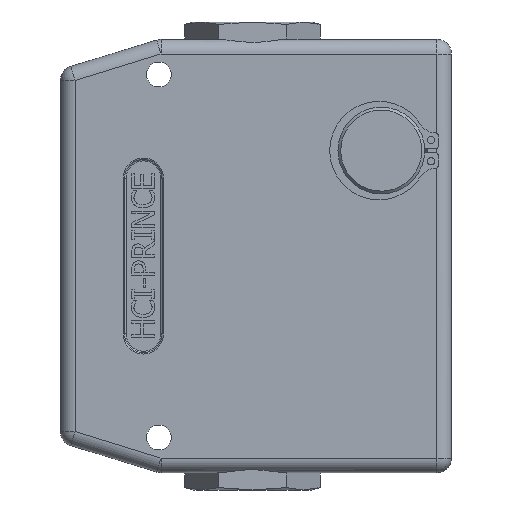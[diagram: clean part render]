
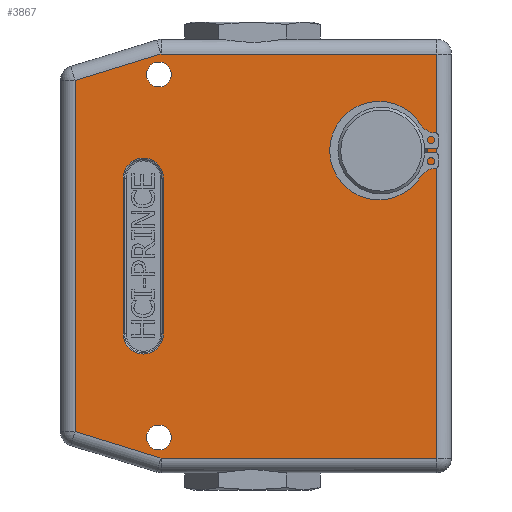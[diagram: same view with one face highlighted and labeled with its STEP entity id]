
A CAD part, left-side view. The second image highlights one B-rep face of the part: STEP entity #3867.
In plain terms, the highlighted planar face has unit normal (-1, 0, 0).
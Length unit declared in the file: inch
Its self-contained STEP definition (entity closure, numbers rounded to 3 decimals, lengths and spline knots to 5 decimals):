
#3639=CARTESIAN_POINT('',(-0.875,-1.969,-4.439));
#3640=VERTEX_POINT('',#3639);
#3648=CARTESIAN_POINT('',(-0.875,0.97655,-4.439));
#3649=VERTEX_POINT('',#3648);
#3650=CARTESIAN_POINT('',(-0.875,-1.969,-4.439));
#3651=DIRECTION('',(0.0,1.0,0.0));
#3652=VECTOR('',#3651,2.94555);
#3653=LINE('',#3650,#3652);
#3654=EDGE_CURVE('',#3640,#3649,#3653,.T.);
#3748=CARTESIAN_POINT('',(-0.875,-1.375,-1.65329));
#3749=VERTEX_POINT('',#3748);
#3750=CARTESIAN_POINT('',(-0.875,-1.375,-1.157));
#3751=DIRECTION('',(-1.0,0.0,0.0));
#3752=DIRECTION('',(0.0,0.0,1.0));
#3753=AXIS2_PLACEMENT_3D('',#3750,#3751,#3752);
#3754=CIRCLE('',#3753,0.49629);
#3755=EDGE_CURVE('',#3749,#3749,#3754,.T.);
#3760=CARTESIAN_POINT('',(-0.875,-0.09973,-2.2824));
#3761=DIRECTION('',(1.0,0.0,0.0));
#3762=DIRECTION('',(0.0,0.0,-1.0));
#3763=AXIS2_PLACEMENT_3D('',#3760,#3761,#3762);
#3764=PLANE('',#3763);
#3765=ORIENTED_EDGE('',*,*,#3654,.F.);
#3766=CARTESIAN_POINT('',(-0.875,-1.969,-0.126));
#3767=VERTEX_POINT('',#3766);
#3768=CARTESIAN_POINT('',(-0.875,-1.969,-0.126));
#3769=DIRECTION('',(0.0,0.0,-1.0));
#3770=VECTOR('',#3769,4.313);
#3771=LINE('',#3768,#3770);
#3772=EDGE_CURVE('',#3767,#3640,#3771,.T.);
#3773=ORIENTED_EDGE('',*,*,#3772,.F.);
#3774=CARTESIAN_POINT('',(-0.875,0.97662,-0.126));
#3775=VERTEX_POINT('',#3774);
#3776=CARTESIAN_POINT('',(-0.875,0.97662,-0.126));
#3777=DIRECTION('',(0.0,-1.0,0.0));
#3778=VECTOR('',#3777,2.94562);
#3779=LINE('',#3776,#3778);
#3780=EDGE_CURVE('',#3775,#3767,#3779,.T.);
#3781=ORIENTED_EDGE('',*,*,#3780,.F.);
#3782=CARTESIAN_POINT('',(-0.875,1.894,-0.40733));
#3783=VERTEX_POINT('',#3782);
#3784=CARTESIAN_POINT('',(-0.875,1.894,-0.40733));
#3785=DIRECTION('',(0.0,-0.956,0.293));
#3786=VECTOR('',#3785,0.95955);
#3787=LINE('',#3784,#3786);
#3788=EDGE_CURVE('',#3783,#3775,#3787,.T.);
#3789=ORIENTED_EDGE('',*,*,#3788,.F.);
#3790=CARTESIAN_POINT('',(-0.875,1.894,-4.15677));
#3791=VERTEX_POINT('',#3790);
#3792=CARTESIAN_POINT('',(-0.875,1.894,-4.15677));
#3793=DIRECTION('',(0.0,0.0,1.0));
#3794=VECTOR('',#3793,3.74944);
#3795=LINE('',#3792,#3794);
#3796=EDGE_CURVE('',#3791,#3783,#3795,.T.);
#3797=ORIENTED_EDGE('',*,*,#3796,.F.);
#3798=CARTESIAN_POINT('',(-0.875,0.97655,-4.439));
#3799=DIRECTION('',(0.0,0.956,0.294));
#3800=VECTOR('',#3799,0.95988);
#3801=LINE('',#3798,#3800);
#3802=EDGE_CURVE('',#3649,#3791,#3801,.T.);
#3803=ORIENTED_EDGE('',*,*,#3802,.F.);
#3804=EDGE_LOOP('',(#3765,#3773,#3781,#3789,#3797,#3803));
#3805=FACE_OUTER_BOUND('',#3804,.T.);
#3806=CARTESIAN_POINT('',(-0.875,1.38,-3.1135));
#3807=VERTEX_POINT('',#3806);
#3808=CARTESIAN_POINT('',(-0.875,0.95,-3.1135));
#3809=VERTEX_POINT('',#3808);
#3810=CARTESIAN_POINT('',(-0.875,1.165,-3.1135));
#3811=DIRECTION('',(-1.0,0.0,0.0));
#3812=DIRECTION('',(0.0,0.0,-1.0));
#3813=AXIS2_PLACEMENT_3D('',#3810,#3811,#3812);
#3814=CIRCLE('',#3813,0.215);
#3815=EDGE_CURVE('',#3807,#3809,#3814,.T.);
#3816=ORIENTED_EDGE('',*,*,#3815,.F.);
#3817=CARTESIAN_POINT('',(-0.875,1.38,-1.4515));
#3818=VERTEX_POINT('',#3817);
#3819=CARTESIAN_POINT('',(-0.875,1.38,-1.4515));
#3820=DIRECTION('',(0.0,0.0,-1.0));
#3821=VECTOR('',#3820,1.662);
#3822=LINE('',#3819,#3821);
#3823=EDGE_CURVE('',#3818,#3807,#3822,.T.);
#3824=ORIENTED_EDGE('',*,*,#3823,.F.);
#3825=CARTESIAN_POINT('',(-0.875,0.95,-1.4515));
#3826=VERTEX_POINT('',#3825);
#3827=CARTESIAN_POINT('',(-0.875,1.165,-1.4515));
#3828=DIRECTION('',(-1.0,0.0,0.0));
#3829=DIRECTION('',(0.0,0.0,1.0));
#3830=AXIS2_PLACEMENT_3D('',#3827,#3828,#3829);
#3831=CIRCLE('',#3830,0.215);
#3832=EDGE_CURVE('',#3826,#3818,#3831,.T.);
#3833=ORIENTED_EDGE('',*,*,#3832,.F.);
#3834=CARTESIAN_POINT('',(-0.875,0.95,-3.1135));
#3835=DIRECTION('',(0.0,0.0,1.0));
#3836=VECTOR('',#3835,1.662);
#3837=LINE('',#3834,#3836);
#3838=EDGE_CURVE('',#3809,#3826,#3837,.T.);
#3839=ORIENTED_EDGE('',*,*,#3838,.F.);
#3840=EDGE_LOOP('',(#3816,#3824,#3833,#3839));
#3841=FACE_BOUND('',#3840,.T.);
#3842=CARTESIAN_POINT('',(-0.875,1.0,-0.477));
#3843=VERTEX_POINT('',#3842);
#3844=CARTESIAN_POINT('',(-0.875,1.0,-0.3445));
#3845=DIRECTION('',(1.0,0.0,0.0));
#3846=DIRECTION('',(0.0,0.0,1.0));
#3847=AXIS2_PLACEMENT_3D('',#3844,#3845,#3846);
#3848=CIRCLE('',#3847,0.1325);
#3849=EDGE_CURVE('',#3843,#3843,#3848,.T.);
#3850=ORIENTED_EDGE('',*,*,#3849,.T.);
#3851=EDGE_LOOP('',(#3850));
#3852=FACE_BOUND('',#3851,.T.);
#3853=CARTESIAN_POINT('',(-0.875,1.0,-4.352));
#3854=VERTEX_POINT('',#3853);
#3855=CARTESIAN_POINT('',(-0.875,1.0,-4.2195));
#3856=DIRECTION('',(1.0,0.0,0.0));
#3857=DIRECTION('',(0.0,0.0,1.0));
#3858=AXIS2_PLACEMENT_3D('',#3855,#3856,#3857);
#3859=CIRCLE('',#3858,0.1325);
#3860=EDGE_CURVE('',#3854,#3854,#3859,.T.);
#3861=ORIENTED_EDGE('',*,*,#3860,.T.);
#3862=EDGE_LOOP('',(#3861));
#3863=FACE_BOUND('',#3862,.T.);
#3864=ORIENTED_EDGE('',*,*,#3755,.F.);
#3865=EDGE_LOOP('',(#3864));
#3866=FACE_BOUND('',#3865,.T.);
#3867=ADVANCED_FACE('',(#3805,#3841,#3852,#3863,#3866),#3764,.F.);
